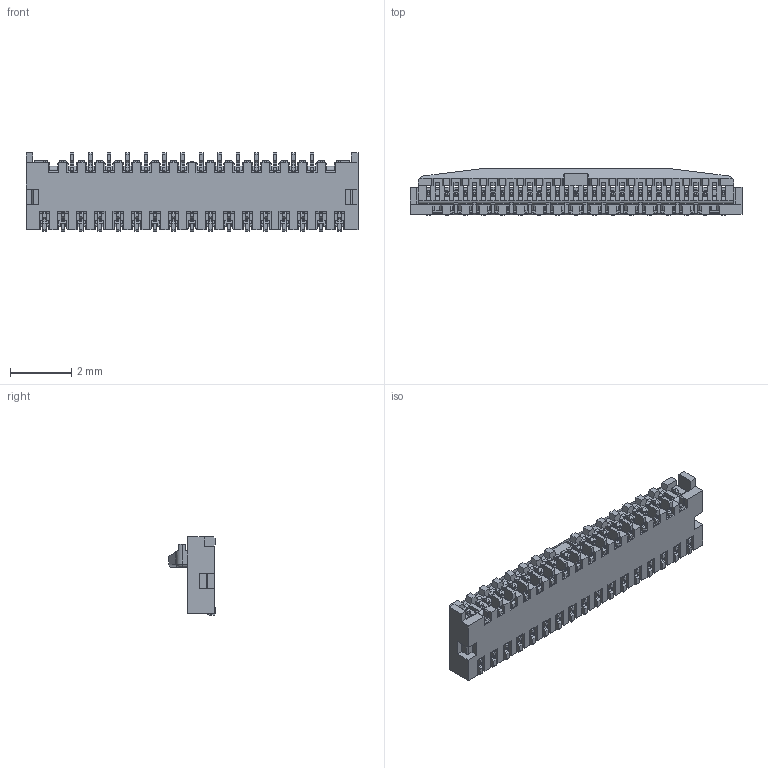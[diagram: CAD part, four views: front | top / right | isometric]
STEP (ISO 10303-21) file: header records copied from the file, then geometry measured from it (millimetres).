
FILE_DESCRIPTION (( 'STEP AP203' ), '1' );
FILE_NAME ('20599-029ExC ASS''Y ACT OPEN STEP R1 ALL.STEP', '2014-12-04T04:02:41', ( ' ' ), ( ' ' ), 'SwSTEP 2.0', 'SolidWorks 2011', '' );
FILE_SCHEMA (( 'CONFIG_CONTROL_DESIGN' ));
Products named in the file (1): 20599-029ExC ASS''Y ACT OPEN STEP R1 ALL
Bounding box: 10.8 x 1.5 x 2.55 mm (x, y, z)
Volume: 20.5 mm3; surface area: 154.9 mm2
Topology: 1 solids, 1 shells, 3489 faces, 10395 edges, 6700 vertices
Faces by surface type: plane 2788, cylinder 649, bspline 48, sphere 2, torus 2
Entity records: 117016 total; most frequent: CARTESIAN_POINT 22929, ORIENTED_EDGE 20786, DIRECTION 18243, EDGE_CURVE 10393, VECTOR 8859, LINE 8859, VERTEX_POINT 6700, AXIS2_PLACEMENT_3D 4692
